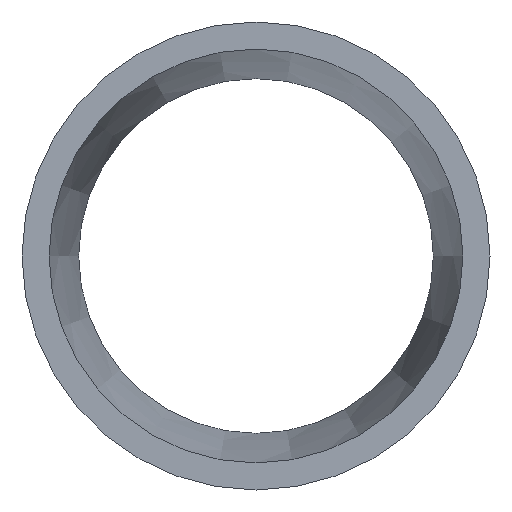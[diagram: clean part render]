
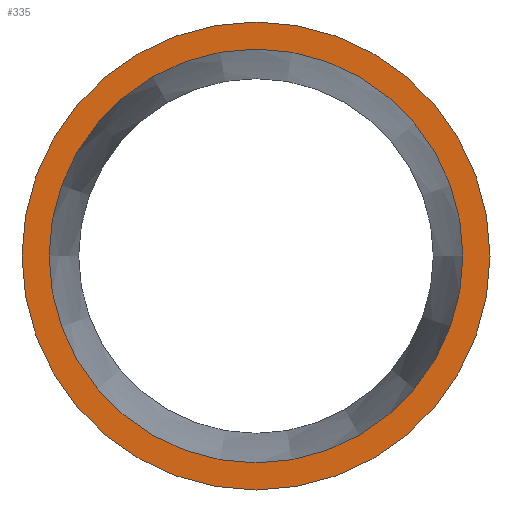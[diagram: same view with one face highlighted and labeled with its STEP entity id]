
A CAD part, left-side view. The second image highlights one B-rep face of the part: STEP entity #335.
In plain terms, the highlighted planar face has unit normal (-1, 0, 0).
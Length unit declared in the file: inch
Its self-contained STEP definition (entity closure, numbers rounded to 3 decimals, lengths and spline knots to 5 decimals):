
#53=FACE_BOUND('',#84,.T.);
#59=PLANE('',#379);
#67=FACE_OUTER_BOUND('',#83,.T.);
#83=EDGE_LOOP('',(#241,#242));
#84=EDGE_LOOP('',(#243,#244));
#131=CIRCLE('',#380,0.95);
#132=CIRCLE('',#381,0.95);
#133=CIRCLE('',#382,0.84);
#134=CIRCLE('',#383,0.84);
#163=VERTEX_POINT('',#586);
#164=VERTEX_POINT('',#587);
#165=VERTEX_POINT('',#590);
#166=VERTEX_POINT('',#591);
#197=EDGE_CURVE('',#163,#164,#131,.T.);
#198=EDGE_CURVE('',#164,#163,#132,.T.);
#199=EDGE_CURVE('',#165,#166,#133,.T.);
#200=EDGE_CURVE('',#166,#165,#134,.T.);
#241=ORIENTED_EDGE('',*,*,#197,.F.);
#242=ORIENTED_EDGE('',*,*,#198,.F.);
#243=ORIENTED_EDGE('',*,*,#199,.T.);
#244=ORIENTED_EDGE('',*,*,#200,.T.);
#335=ADVANCED_FACE('',(#67,#53),#59,.T.);
#379=AXIS2_PLACEMENT_3D('',#585,#454,#455);
#380=AXIS2_PLACEMENT_3D('',#588,#456,#457);
#381=AXIS2_PLACEMENT_3D('',#589,#458,#459);
#382=AXIS2_PLACEMENT_3D('',#592,#460,#461);
#383=AXIS2_PLACEMENT_3D('',#593,#462,#463);
#454=DIRECTION('center_axis',(-1.,0.,0.));
#455=DIRECTION('ref_axis',(0.,0.,1.));
#456=DIRECTION('center_axis',(1.,0.,0.));
#457=DIRECTION('ref_axis',(0.,1.,0.));
#458=DIRECTION('center_axis',(1.,0.,0.));
#459=DIRECTION('ref_axis',(0.,1.,0.));
#460=DIRECTION('center_axis',(1.,0.,0.));
#461=DIRECTION('ref_axis',(0.,1.,0.));
#462=DIRECTION('center_axis',(1.,0.,0.));
#463=DIRECTION('ref_axis',(0.,1.,0.));
#585=CARTESIAN_POINT('Origin',(0.,0.895,0.));
#586=CARTESIAN_POINT('',(0.,0.95,0.));
#587=CARTESIAN_POINT('',(0.,-0.95,0.));
#588=CARTESIAN_POINT('Origin',(0.,0.,0.));
#589=CARTESIAN_POINT('Origin',(0.,0.,0.));
#590=CARTESIAN_POINT('',(0.,0.84,0.));
#591=CARTESIAN_POINT('',(0.,-0.84,0.));
#592=CARTESIAN_POINT('Origin',(0.,0.,0.));
#593=CARTESIAN_POINT('Origin',(0.,0.,0.));
